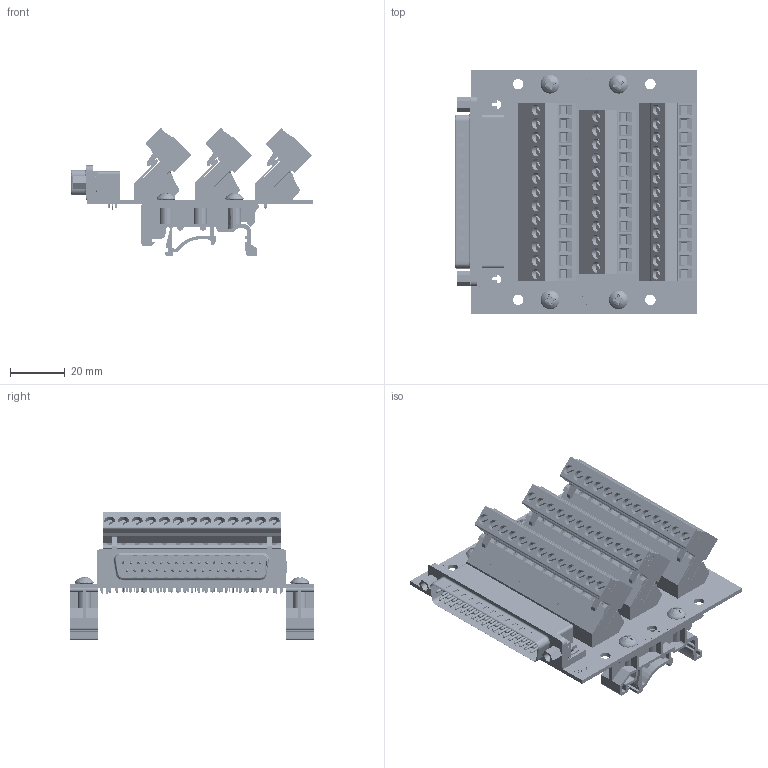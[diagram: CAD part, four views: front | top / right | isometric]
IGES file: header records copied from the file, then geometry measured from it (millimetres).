
Start section: SolidWorks IGES file using analytic representation for surfaces
Global section: file name: D:\Documents\Winford Engineering Jobs\BRKLD37\BRKLD37M\brkld37m-rw-din_rev_a.igs; native system: SolidWorks 2017; preprocessor: SolidWorks 2017; author: mudhf; date: 210308.224854; units: inch
Bounding box: 88.58 x 88.9 x 46.77 mm (x, y, z)
Surface area: 72932.6 mm2 (no closed solid volume)
Topology: 0 solids, 0 shells, 14059 faces, 116399 edges, 116191 vertices
Faces by surface type: bspline 10939, revolution 3120
